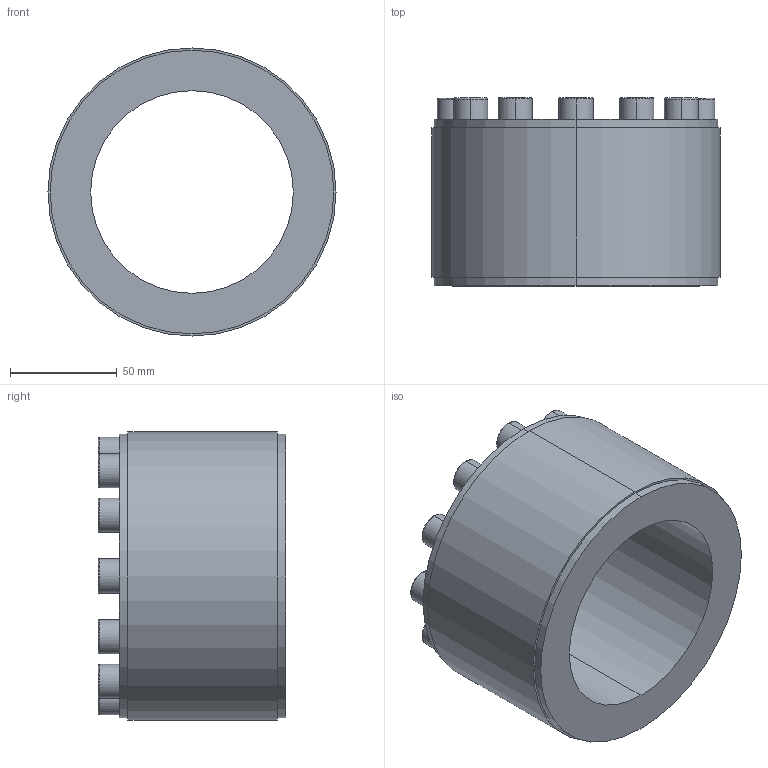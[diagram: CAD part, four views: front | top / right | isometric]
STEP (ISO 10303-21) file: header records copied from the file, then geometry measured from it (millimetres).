
FILE_DESCRIPTION (( 'STEP AP203' ), '1' );
FILE_NAME ('PL-D1 95-135.STEP', '2021-10-23T00:17:21', ( '' ), ( '' ), 'SwSTEP 2.0', 'SolidWorks 2018', '' );
FILE_SCHEMA (( 'CONFIG_CONTROL_DESIGN' ));
Length unit declared in the file: millimetre
Products named in the file (1): PL-D1 95-135
Bounding box: 135 x 88 x 135 mm (x, y, z)
Volume: 581003.9 mm3; surface area: 78325.1 mm2
Topology: 1 solids, 1 shells, 156 faces, 360 edges, 232 vertices
Faces by surface type: plane 100, cylinder 32, torus 24
Entity records: 4485 total; most frequent: DIRECTION 786, CARTESIAN_POINT 749, ORIENTED_EDGE 720, EDGE_CURVE 360, AXIS2_PLACEMENT_3D 269, LINE 248, VECTOR 248, VERTEX_POINT 232
